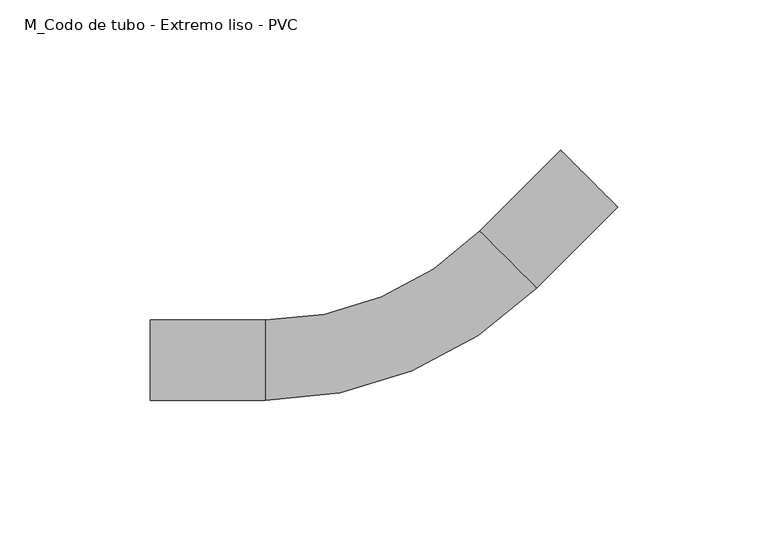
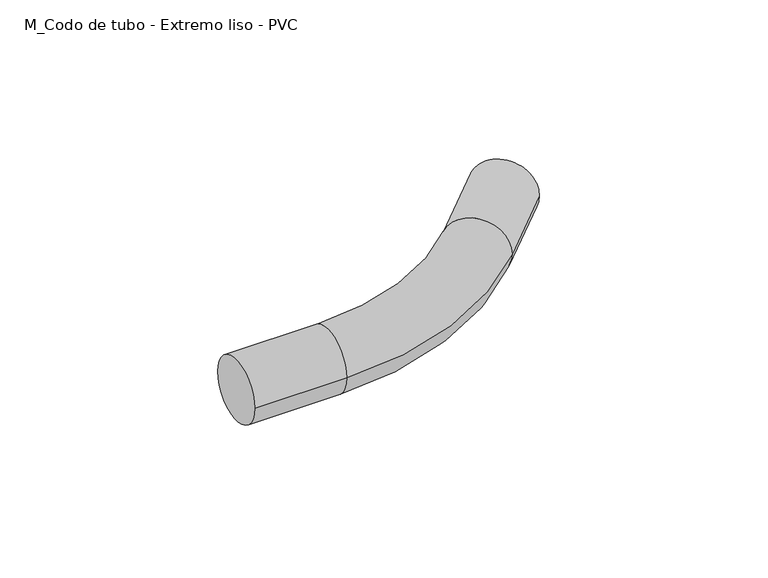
"""IFC4 building model written with IfcOpenShell, lengths in millimetres: cable carrier fitting geometry, M_Codo de tubo - Extremo liso - PVC : CODO ILUMINACION."""

from ifc_helpers import new_model, si_unit, point, frame, origin, place, context, project, spatial, circle_curve, ellipse_curve, trimmed, source, transform, mapped, element, save
from ifc_brep_helpers import plane_surface, cylinder_surface, revolved_surface, advanced_brep


def m_codo_de_tubo_extremo_liso_pvc_8d6d9c39(model_context):
    return source(origin(), model_context, "Body", "AdvancedBrep", [
        advanced_brep(
        [(-85.4446102, -13.335, 0.0), (-85.4446102, 13.335, 0.0), (-47.3446102, -13.335, 0.0), (-47.3446102, 13.335, 0.0), (24.048426, 42.9069638, 0.0), (42.9069638, 24.048426, 0.0), (69.8477322, 50.9891943, 0.0), (50.9891943, 69.8477322, 0.0)],
        [
            (0, 1, circle_curve(frame((-85.4446102, 0.0, 0.0), z_axis=(-1.0, 0.0, 0.0), x_axis=(0.0, 1.0, 0.0)), 13.335)),
            (1, 0, circle_curve(frame((-85.4446102, 0.0, 0.0), z_axis=(-1.0, 0.0, 0.0), x_axis=(0.0, 1.0, 0.0)), 13.335)),
            (0, 2),
            (2, 3, circle_curve(frame((-47.3446102, 0.0, 0.0), z_axis=(-1.0, 0.0, 0.0), x_axis=(0.0, 1.0, 0.0)), 13.335)),
            (3, 1),
            (3, 2, circle_curve(frame((-47.3446102, 0.0, 0.0), z_axis=(-1.0, 0.0, 0.0), x_axis=(0.0, 1.0, 0.0)), 13.335)),
            (4, 3, circle_curve(frame((-47.3446102, 114.3, 0.0), z_axis=(0.0, 0.0, -1.0), x_axis=(0.0, -1.0, 0.0)), 100.965)),
            (2, 5, circle_curve(frame((-47.3446102, 114.3, 0.0), z_axis=(0.0, 0.0, 1.0), x_axis=(0.0, -1.0, 0.0)), 127.635)),
            (5, 4, circle_curve(frame((33.4776949, 33.4776949, 0.0), z_axis=(-0.7071067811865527, -0.7071067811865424, 0.0), x_axis=(-0.7071067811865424, 0.7071067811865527, 0.0)), 13.335)),
            (4, 5, circle_curve(frame((33.4776949, 33.4776949, 0.0), z_axis=(-0.7071067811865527, -0.7071067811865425, 0.0), x_axis=(-0.7071067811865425, 0.7071067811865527, 0.0)), 13.335)),
            (6, 7, circle_curve(frame((60.4184633, 60.4184633, 0.0), z_axis=(0.7071067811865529, 0.7071067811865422, 0.0), x_axis=(-0.7071067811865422, 0.7071067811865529, 0.0)), 13.335)),
            (7, 6, circle_curve(frame((60.4184633, 60.4184633, 0.0), z_axis=(0.7071067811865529, 0.7071067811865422, 0.0), x_axis=(-0.7071067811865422, 0.7071067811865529, 0.0)), 13.335)),
            (5, 6),
            (7, 4),
        ],
        [
            plane_surface(frame((-85.4446102, 0.0, 0.0), z_axis=(-1.0, 0.0, 0.0), x_axis=(0.0, 0.0, 1.0))),
            cylinder_surface(frame((-85.4446102, 0.0, 0.0), z_axis=(-1.0, 0.0, 0.0), x_axis=(0.0, 1.0, 0.0)), 13.335),
            revolved_surface(trimmed(ellipse_curve(frame((-47.3446102, 0.0, 0.0), z_axis=(-1.0, 0.0, 0.0), x_axis=(0.0, 1.0, 0.0)), 13.335, 13.335), [point((-47.3446102, -13.335, 0.0))], [point((-47.3446102, 13.335, 0.0))], True, "CARTESIAN"), (-47.3446102, 114.3, 0.0), (0.0, 0.0, 1.0)),
            revolved_surface(trimmed(ellipse_curve(frame((-47.3446102, 0.0, 0.0), z_axis=(-1.0, 0.0, 0.0), x_axis=(0.0, 1.0, 0.0)), 13.335, 13.335), [point((-47.3446102, 13.335, 0.0))], [point((-47.3446102, -13.335, 0.0))], True, "CARTESIAN"), (-47.3446102, 114.3, 0.0), (0.0, 0.0, 1.0)),
            plane_surface(frame((60.4184633, 60.4184633, 0.0), z_axis=(0.707106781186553, 0.7071067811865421, 0.0), x_axis=(0.0, 0.0, 1.0))),
            cylinder_surface(frame((33.4776949, 33.4776949, 0.0), z_axis=(-0.7071067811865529, -0.7071067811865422, 0.0), x_axis=(-0.7071067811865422, 0.7071067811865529, 0.0)), 13.335),
        ],
        [
            (0, [[1, 2]]),
            (1, [[-1, 3, 4, 5]]),
            (1, [[-2, -5, 6, -3]]),
            (2, [[7, -4, 8, 9]]),
            (3, [[-8, -6, -7, 10]]),
            (4, [[11, 12]]),
            (5, [[-9, 13, -12, 14]]),
            (5, [[-10, -14, -11, -13]]),
        ],
    ),
    ])


if __name__ == "__main__":
    model = new_model("IFC4")
    model_context = context("Model", 3, world=origin())
    ifc_project = project(units=[si_unit("LENGTHUNIT", "METRE", prefix="MILLI")], contexts=[model_context])
    site = spatial("IfcSite", under=ifc_project)
    building = spatial("IfcBuilding", under=site)
    placement = place(None, origin())
    m_codo_de_tubo_extremo_liso_pvc_shape = m_codo_de_tubo_extremo_liso_pvc_8d6d9c39(model_context)
    element("IfcCableCarrierFitting", 1, ObjectType="M_Codo de tubo - Extremo liso - PVC : CODO ILUMINACION", at=placement, inside=building, context=model_context, shape_type="MappedRepresentation", body=[
        mapped(m_codo_de_tubo_extremo_liso_pvc_shape, transform((0.0, 0.0, 0.0), x_axis=(1.0, 0.0, 0.0), y_axis=(0.0, 1.0, 0.0), z_axis=(0.0, 0.0, 1.0))),
    ])
    save(model, "model.ifc")
